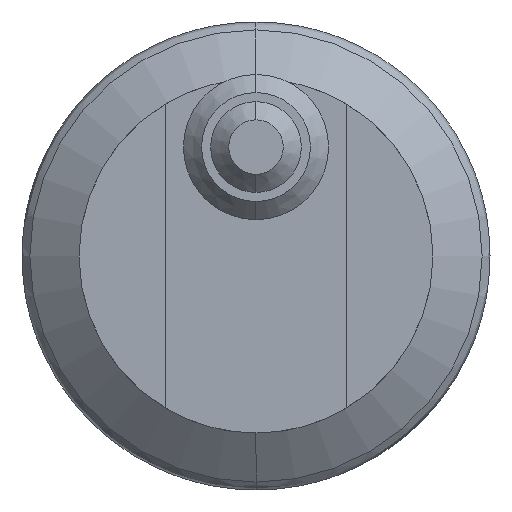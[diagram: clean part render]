
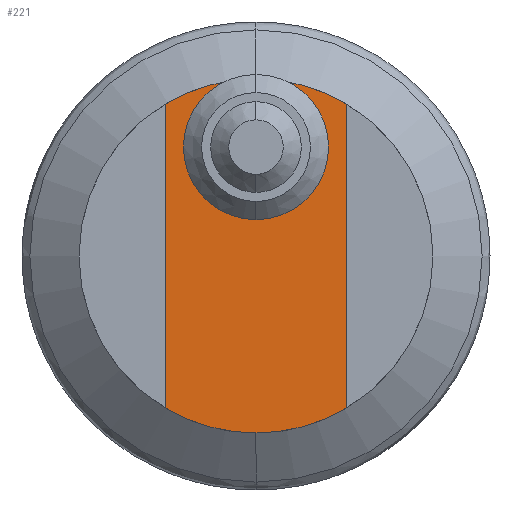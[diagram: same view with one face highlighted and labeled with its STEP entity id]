
A CAD part, left-side view. The second image highlights one B-rep face of the part: STEP entity #221.
In plain terms, the highlighted planar face has unit normal (-1, 0, 0).
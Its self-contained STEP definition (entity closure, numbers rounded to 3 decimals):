
#221=ADVANCED_FACE('',(#450,#451),#452,.T.);
#450=FACE_OUTER_BOUND('',#1801,.T.);
#451=FACE_BOUND('',#1802,.T.);
#452=PLANE('',#1803);
#1801=EDGE_LOOP('',(#2566,#2567,#2568,#2569,#2570,#2571));
#1802=EDGE_LOOP('',(#2572,#2573));
#1803=AXIS2_PLACEMENT_3D('',#2574,#2575,#2576);
#2566=ORIENTED_EDGE('',*,*,#2982,.T.);
#2567=ORIENTED_EDGE('',*,*,#2978,.T.);
#2568=ORIENTED_EDGE('',*,*,#2780,.T.);
#2569=ORIENTED_EDGE('',*,*,#2971,.T.);
#2570=ORIENTED_EDGE('',*,*,#2784,.T.);
#2571=ORIENTED_EDGE('',*,*,#2981,.T.);
#2572=ORIENTED_EDGE('',*,*,#2970,.T.);
#2573=ORIENTED_EDGE('',*,*,#2796,.T.);
#2574=CARTESIAN_POINT('',(0.0,4.875,0.0));
#2575=DIRECTION('',(-1.0,0.0,0.0));
#2576=DIRECTION('',(0.0,0.0,1.0));
#2780=EDGE_CURVE('',#3093,#3094,#3095,.T.);
#2784=EDGE_CURVE('',#3102,#3100,#3103,.T.);
#2796=EDGE_CURVE('',#3125,#3126,#3127,.T.);
#2970=EDGE_CURVE('',#3126,#3125,#3399,.T.);
#2971=EDGE_CURVE('',#3094,#3102,#3400,.T.);
#2978=EDGE_CURVE('',#3409,#3093,#3410,.T.);
#2981=EDGE_CURVE('',#3100,#3412,#3414,.T.);
#2982=EDGE_CURVE('',#3412,#3409,#3415,.T.);
#3093=VERTEX_POINT('',#3552);
#3094=VERTEX_POINT('',#3553);
#3095=CIRCLE('',#3554,9.75);
#3100=VERTEX_POINT('',#3560);
#3102=VERTEX_POINT('',#3563);
#3103=CIRCLE('',#3564,9.75);
#3125=VERTEX_POINT('',#3592);
#3126=VERTEX_POINT('',#3593);
#3127=CIRCLE('',#3594,1.932);
#3399=CIRCLE('',#4288,1.932);
#3400=LINE('',#4289,#4290);
#3409=VERTEX_POINT('',#4300);
#3410=CIRCLE('',#4301,9.75);
#3412=VERTEX_POINT('',#4304);
#3414=CIRCLE('',#4307,9.75);
#3415=LINE('',#4308,#4309);
#3552=CARTESIAN_POINT('',(0.0,0.,9.75));
#3553=CARTESIAN_POINT('',(0.0,5.0,8.37));
#3554=AXIS2_PLACEMENT_3D('',#4512,#4513,#4514);
#3560=CARTESIAN_POINT('',(0.0,0.0,-9.75));
#3563=CARTESIAN_POINT('',(0.0,5.0,-8.37));
#3564=AXIS2_PLACEMENT_3D('',#4520,#4521,#4522);
#3592=CARTESIAN_POINT('',(0.,1.932,6.0));
#3593=CARTESIAN_POINT('',(0.,-1.932,6.0));
#3594=AXIS2_PLACEMENT_3D('',#4544,#4545,#4546);
#4288=AXIS2_PLACEMENT_3D('',#4864,#4865,#4866);
#4289=CARTESIAN_POINT('',(0.0,5.0,0.0));
#4290=VECTOR('',#4867,1000.0);
#4300=CARTESIAN_POINT('',(0.0,-5.0,8.37));
#4301=AXIS2_PLACEMENT_3D('',#4884,#4885,#4886);
#4304=CARTESIAN_POINT('',(0.0,-5.0,-8.37));
#4307=AXIS2_PLACEMENT_3D('',#4889,#4890,#4891);
#4308=CARTESIAN_POINT('',(0.0,-5.0,0.0));
#4309=VECTOR('',#4892,1000.0);
#4512=CARTESIAN_POINT('',(0.0,0.0,0.0));
#4513=DIRECTION('',(-1.0,0.0,0.0));
#4514=DIRECTION('',(0.0,0.0,-1.0));
#4520=CARTESIAN_POINT('',(0.0,0.0,0.0));
#4521=DIRECTION('',(-1.0,0.0,0.0));
#4522=DIRECTION('',(0.0,0.,-1.0));
#4544=CARTESIAN_POINT('',(0.0,0.,6.0));
#4545=DIRECTION('',(1.0,0.,0.));
#4546=DIRECTION('',(0.,-1.0,0.0));
#4864=CARTESIAN_POINT('',(0.0,0.,6.0));
#4865=DIRECTION('',(1.0,0.,0.));
#4866=DIRECTION('',(0.,-1.0,0.0));
#4867=DIRECTION('',(0.0,0.0,-1.0));
#4884=CARTESIAN_POINT('',(0.0,0.0,0.0));
#4885=DIRECTION('',(-1.0,0.0,0.0));
#4886=DIRECTION('',(0.0,0.0,-1.0));
#4889=CARTESIAN_POINT('',(0.0,0.0,0.0));
#4890=DIRECTION('',(-1.0,0.0,0.0));
#4891=DIRECTION('',(0.0,0.0,-1.0));
#4892=DIRECTION('',(0.0,0.0,1.0));
